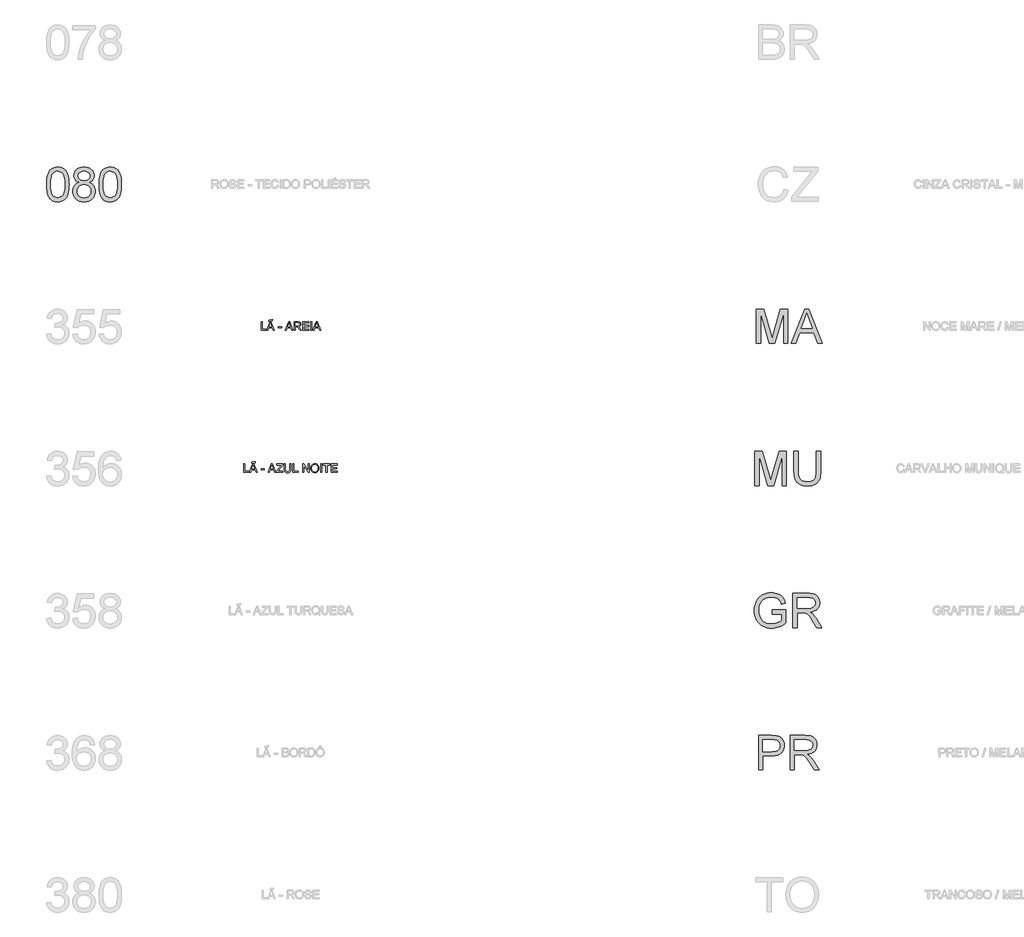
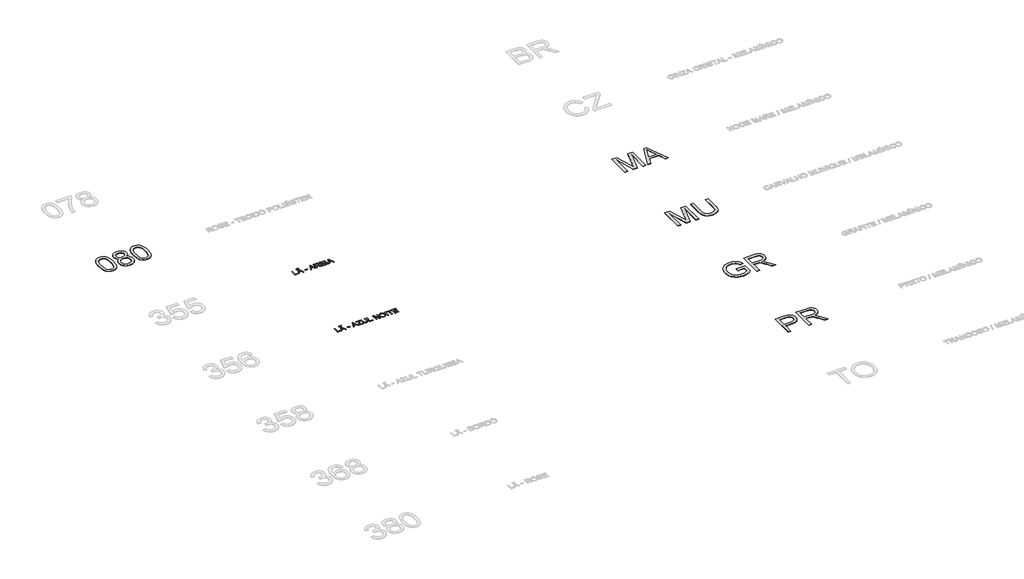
# One storey, part 27 of 67: 7 proxies.
"""IFC4 building model written with IfcOpenShell, lengths in millimetres."""

from ifc_helpers import new_model, si_unit, origin, origin_with_axes, place, context, project, spatial, polyline, outline, extrude, element, save

model = new_model("IFC4")

# Units and contexts
model_context = context("Model", 3, world=origin())
ifc_project = project(units=[si_unit("LENGTHUNIT", "METRE", prefix="MILLI")], contexts=[model_context])

# Site, building, storey
site = spatial("IfcSite", under=ifc_project)
building = spatial("IfcBuilding", under=site)
storey = spatial("IfcBuildingStorey", under=building, Name="Marelli - Linha COLAB - Planta Baixa", Elevation=0.0)

# Proxies
placement = place(None, origin())
element("IfcBuildingElementProxy", 1, Name="1200mm Arial", ObjectType="1200mm Arial", at=placement, inside=storey, context=model_context, shape_type="SweptSolid", body=[
    extrude(outline(polyline([(24790.6152836, -112988.8184403), (24790.6152836, -111783.3427185), (25049.8985138, -111783.3427185), (25296.5266033, -112633.0029745), (25346.2642491, -112810.469249), (25400.1221732, -112618.2876947), (25642.6299844, -111783.3427185), (25901.9132146, -111783.3427185), (25901.9132146, -112988.8184403), (25751.2287494, -112988.8184403), (25751.2287494, -111934.0271837), (25448.3882909, -112988.8184403), (25244.1402072, -112988.8184403), (24941.2997488, -111934.0271837), (24941.2997488, -112988.8184403), (24790.6152836, -112988.8184403)])), origin_with_axes(), (0.0, 0.0, 1.0), 10.0),
    extrude(outline(polyline([(26025.2272594, -112988.8184403), (26506.4169091, -111783.3427185), (26634.734149, -111783.3427185), (27115.9237987, -112988.8184403), (26956.7044712, -112988.8184403), (26818.6751466, -112612.1072772), (26322.1816059, -112612.1072772), (26184.4465869, -112988.8184403), (26025.2272594, -112988.8184403)]), holes=[polyline([(26377.511058, -112461.422812), (26763.6400001, -112461.422812), (26655.0412351, -112165.0570767), (26570.575529, -111934.0271837), (26495.527602, -112139.1581842), (26377.511058, -112461.422812)])]), origin_with_axes(), (0.0, 0.0, 1.0), 10.0),
])
element("IfcBuildingElementProxy", 2, Name="1200mm Arial", ObjectType="1200mm Arial", at=placement, inside=storey, context=model_context, shape_type="SweptSolid", body=[
    extrude(outline(polyline([(24743.5263882, -117988.8184403), (24743.5263882, -116783.3427185), (25002.8096184, -116783.3427185), (25249.437708, -117633.0029745), (25299.1753537, -117810.469249), (25353.0332778, -117618.2876947), (25595.541089, -116783.3427185), (25854.8243192, -116783.3427185), (25854.8243192, -117988.8184403), (25704.139854, -117988.8184403), (25704.139854, -116934.0271837), (25401.2993956, -117988.8184403), (25197.0513118, -117988.8184403), (24894.2108534, -116934.0271837), (24894.2108534, -117988.8184403), (24743.5263882, -117988.8184403)])), origin_with_axes(), (0.0, 0.0, 1.0), 10.0),
    extrude(outline(polyline([(26909.6155758, -116783.3427185), (27060.300041, -116783.3427185), (27060.300041, -117478.7868422), (27057.7432611, -117564.8988202), (27050.0729215, -117641.6482014), (27037.2890222, -117709.0349859), (27019.3915631, -117767.0591736), (26994.83544, -117817.9188594), (26962.0755483, -117863.8121383), (26921.1118881, -117904.7390103), (26871.9444595, -117940.6994753), (26814.51808, -117969.9920792), (26748.7775675, -117990.9153676), (26674.7229219, -118003.4693407), (26592.3541431, -118007.6539984), (26512.0179124, -118004.0119667), (26439.3520214, -117993.0858714), (26374.3564699, -117974.8757126), (26317.031258, -117949.3814904), (26267.3671886, -117916.9802837), (26225.3550648, -117878.0491715), (26190.9948864, -117832.588154), (26164.2866536, -117780.597231), (26144.264676, -117720.2921749), (26129.9632634, -117649.8887581), (26121.3824159, -117569.3869805), (26118.5221334, -117478.7868422), (26118.5221334, -116783.3427185), (26269.2065986, -116783.3427185), (26269.2065986, -117473.4893414), (26271.0644027, -117546.3391735), (26276.6378149, -117608.9067038), (26285.9268353, -117661.1919324), (26298.9314638, -117703.1948592), (26316.4610409, -117737.9505107), (26339.3249069, -117768.4939134), (26367.5230618, -117794.8250672), (26401.0555057, -117816.9439721), (26439.278445, -117834.4551551), (26481.5480862, -117846.9631429), (26527.8644294, -117854.4679356), (26578.2274745, -117856.9695332), (26661.2768349, -117852.0215204), (26731.4871137, -117837.1774819), (26761.7775975, -117826.044453), (26788.8583109, -117812.4374177), (26812.7292538, -117796.356376), (26833.3904264, -117777.8013278), (26851.2556958, -117755.7284081), (26866.7389292, -117729.0937517), (26879.8401268, -117697.8973585), (26890.5592884, -117662.1392285), (26904.8515039, -117576.9377585), (26909.6155758, -117473.4893414), (26909.6155758, -116783.3427185)])), origin_with_axes(), (0.0, 0.0, 1.0), 10.0),
])
element("IfcBuildingElementProxy", 3, Name="1200mm Arial", ObjectType="1200mm Arial", at=placement, inside=storey, context=model_context, shape_type="SweptSolid", body=[
    extrude(outline(polyline([(25346.2642491, -122517.9294864), (25346.2642491, -122367.2450212), (25835.9887611, -122367.2450212), (25835.9887611, -122817.8268889), (25776.9528979, -122862.1382752), (25716.9789356, -122900.6003378), (25656.0668743, -122933.2130767), (25594.2167138, -122959.9764918), (25531.5020307, -122980.835401), (25467.9964013, -122995.7346218), (25403.6998256, -123004.6741543), (25338.6123036, -123007.6539984), (25252.0588672, -123002.9175177), (25169.5705268, -122988.7080757), (25091.1472825, -122965.0256722), (25016.7891342, -122931.8703074), (24948.896512, -122889.7386219), (24889.8698459, -122839.1272564), (24839.7091358, -122780.036211), (24798.4143819, -122712.4654855), (24766.1603279, -122638.5763868), (24743.121718, -122560.5302215), (24729.298552, -122478.3269897), (24724.69083, -122391.9666913), (24729.2801579, -122305.5971959), (24743.0481416, -122222.1891505), (24765.994781, -122141.7425552), (24798.1200763, -122064.25741), (24838.8538102, -121993.1366233), (24887.6257657, -121931.7831035), (24944.4359428, -121880.1968508), (25009.2843415, -121838.3778649), (25080.7638132, -121806.0594317), (25157.4672092, -121782.9748365), (25239.3945295, -121769.1240794), (25326.5457741, -121764.5071603), (25390.1709652, -121767.1835018), (25450.6691593, -121775.2125264), (25508.0403565, -121788.594234), (25562.2845566, -121807.3286246), (25612.1233699, -121830.836284), (25656.2784064, -121858.5377983), (25694.7496661, -121890.4331673), (25727.5371489, -121926.522391), (25755.6893186, -121967.6240069), (25780.2546388, -122014.5565524), (25801.2331096, -122067.3200276), (25818.6247309, -122125.9144324), (25679.7124895, -122165.0570767), (25665.043195, -122122.9069971), (25648.7000373, -122085.6313539), (25630.6830166, -122053.2301472), (25610.9921328, -122025.7033769), (25588.2570255, -122001.8646236), (25561.1073343, -121980.5274679), (25529.5430591, -121961.6919097), (25493.5642, -121945.3579491), (25454.3387822, -121932.1601826), (25413.0348312, -121922.7332064), (25369.6523469, -121917.0770208), (25324.1913294, -121915.1916255), (25270.3058141, -121917.2241736), (25220.1910893, -121923.3218176), (25173.847155, -121933.4845578), (25131.2740111, -121947.7123939), (25092.5544311, -121965.241971), (25057.7711885, -121985.3099338), (25026.9242832, -122007.9162824), (25000.0137152, -122033.0610168), (24955.6839348, -122088.5008335), (24922.4641906, -122149.1645745), (24901.8627989, -122204.8986967), (24887.1475191, -122262.9136874), (24878.3183512, -122323.2095464), (24875.3752953, -122385.7862738), (24878.9161595, -122461.0273388), (24889.5387521, -122529.8856513), (24907.2430731, -122592.3612111), (24932.0291225, -122648.4540183), (24963.5750036, -122697.9525408), (25001.5588196, -122740.6452463), (25045.9805705, -122776.5321349), (25096.8402564, -122805.6132067), (25151.7558412, -122828.0815995), (25208.3452891, -122844.1304516), (25266.6086001, -122853.7597628), (25326.5457741, -122856.9695332), (25379.0517319, -122854.5507091), (25430.9138962, -122847.2942367), (25482.132267, -122835.2001161), (25532.7068442, -122818.2683473), (25621.1088877, -122778.2795744), (25656.2324212, -122757.3194978), (25685.3042958, -122735.7156276), (25685.3042958, -122517.9294864), (25346.2642491, -122517.9294864)])), origin_with_axes(), (0.0, 0.0, 1.0), 10.0),
    extrude(outline(polyline([(26080.8510171, -122988.8184403), (26080.8510171, -121783.3427185), (26600.3003942, -121783.3427185), (26674.8608776, -121785.3752665), (26739.9116114, -121791.4729106), (26795.4525956, -121801.6356507), (26841.4838303, -121815.8634868), (26880.6816569, -121835.250868), (26915.7224169, -121860.8922431), (26946.6061104, -121892.787612), (26973.3327373, -121930.9369749), (26994.8998193, -121973.2893896), (27010.3048779, -122017.793914), (27019.547913, -122064.450548), (27022.6289247, -122113.2592917), (27017.524562, -122175.1738315), (27002.211474, -122232.0115998), (26976.6896606, -122283.7725965), (26940.9591218, -122330.4568217), (26919.1506172, -122351.5226644), (26894.5600051, -122370.5743533), (26837.0324581, -122402.6352692), (26768.3764808, -122426.6395693), (26688.5920731, -122442.5872538), (26738.2561424, -122475.0344458), (26774.2350016, -122507.0401794), (26835.9656004, -122580.2486964), (26896.371824, -122662.1392285), (27097.3825461, -122988.8184403), (26922.2707164, -122988.8184403), (26765.4058337, -122738.9529891), (26702.6451653, -122643.597976), (26652.0981792, -122573.5532441), (26609.9756907, -122525.3239145), (26572.4885154, -122495.4151083), (26536.9879029, -122477.8671372), (26500.8251027, -122466.7203127), (26465.5820076, -122462.7471872), (26413.4163407, -122461.422812), (26231.5354823, -122461.422812), (26231.5354823, -122988.8184403), (26080.8510171, -122988.8184403)]), holes=[polyline([(26231.5354823, -122310.7383468), (26568.8096955, -122310.7383468), (26665.6730248, -122305.4040578), (26705.9653003, -122298.7361967), (26740.8313164, -122289.401191), (26771.0528223, -122277.1323265), (26797.4115673, -122261.6628886), (26819.9075513, -122242.9928773), (26838.5407743, -122221.1222927), (26853.1548866, -122197.1271896), (26863.5935382, -122172.0836228), (26869.8567292, -122145.9915923), (26871.9444595, -122118.8510981), (26867.9621369, -122080.3154591), (26856.0151691, -122045.3482754), (26836.1035561, -122013.9495471), (26808.2272979, -121986.1192742), (26771.742601, -121963.3289846), (26726.005672, -121947.0502063), (26671.0165108, -121937.2829394), (26606.7751174, -121934.0271837), (26231.5354823, -121934.0271837), (26231.5354823, -122310.7383468)])]), origin_with_axes(), (0.0, 0.0, 1.0), 10.0),
])
element("IfcBuildingElementProxy", 4, Name="1200mm Arial", ObjectType="1200mm Arial", at=placement, inside=storey, context=model_context, shape_type="SweptSolid", body=[
    extrude(outline(polyline([(24875.3752953, -127988.8184403), (24875.3752953, -126783.3427185), (25322.1311902, -126783.3427185), (25426.1682184, -126786.212198), (25502.246215, -126794.8206367), (25544.1755654, -126803.8613368), (25582.5548546, -126816.268157), (25617.3840825, -126832.0410976), (25648.6632491, -126851.1801584), (25676.7234483, -126874.0808126), (25701.8957738, -126901.1385333), (25724.1802257, -126932.3533206), (25743.5768039, -126967.7251745), (25759.2853651, -127006.0860695), (25770.5057659, -127046.2679804), (25777.2380064, -127088.2709072), (25779.4820866, -127132.0948499), (25773.4212307, -127206.0943132), (25765.8451609, -127240.8729573), (25755.2386631, -127274.1708764), (25741.6017374, -127305.9880705), (25724.9343838, -127336.3245395), (25705.2366022, -127365.1802835), (25682.5083927, -127392.5553025), (25655.8254517, -127417.5252929), (25624.2634758, -127439.1659513), (25587.8224649, -127457.4772776), (25546.5024191, -127472.4592718), (25500.3033382, -127484.111934), (25449.2252225, -127492.4352642), (25393.2680718, -127497.4292623), (25332.4318861, -127499.0939283), (25026.0597605, -127499.0939283), (25026.0597605, -127988.8184403), (24875.3752953, -127988.8184403)]), holes=[polyline([(25026.0597605, -127348.4094631), (25341.2610539, -127348.4094631), (25413.733807, -127344.9513723), (25474.8757946, -127334.5771), (25524.6870167, -127317.2866463), (25563.1674734, -127293.080011), (25591.8806632, -127262.6009877), (25612.3900844, -127226.4933699), (25624.6957371, -127184.7571575), (25628.7976214, -127137.3923506), (25626.3787973, -127102.2228319), (25619.1223249, -127069.7020635), (25607.0282043, -127039.8300455), (25590.0964355, -127012.6067779), (25569.2283293, -126988.9151774), (25545.3251967, -126969.6381608), (25518.3870376, -126954.7757282), (25488.413852, -126944.3278796), (25430.2884968, -126936.6023577), (25337.7293868, -126934.0271837), (25026.0597605, -126934.0271837), (25026.0597605, -127348.4094631)])]), origin_with_axes(), (0.0, 0.0, 1.0), 10.0),
    extrude(outline(polyline([(25986.6732263, -127988.8184403), (25986.6732263, -126783.3427185), (26506.1226035, -126783.3427185), (26580.6830868, -126785.3752665), (26645.7338206, -126791.4729106), (26701.2748049, -126801.6356507), (26747.3060395, -126815.8634868), (26786.5038661, -126835.250868), (26821.5446261, -126860.8922431), (26852.4283196, -126892.787612), (26879.1549466, -126930.9369749), (26900.7220286, -126973.2893896), (26916.1270871, -127017.793914), (26925.3701222, -127064.450548), (26928.4511339, -127113.2592917), (26923.3467713, -127175.1738315), (26908.0336832, -127232.0115998), (26882.5118698, -127283.7725965), (26846.781331, -127330.4568217), (26824.9728265, -127351.5226644), (26800.3822144, -127370.5743533), (26742.8546674, -127402.6352692), (26674.19869, -127426.6395693), (26594.4142823, -127442.5872538), (26644.0783517, -127475.0344458), (26680.0572108, -127507.0401794), (26741.7878096, -127580.2486964), (26802.1940332, -127662.1392285), (27003.2047554, -127988.8184403), (26828.0929257, -127988.8184403), (26671.2280429, -127738.9529891), (26608.4673745, -127643.597976), (26557.9203884, -127573.5532441), (26515.7978999, -127525.3239145), (26478.3107246, -127495.4151083), (26442.8101121, -127477.8671372), (26406.647312, -127466.7203127), (26371.4042168, -127462.7471872), (26319.2385499, -127461.422812), (26137.3576915, -127461.422812), (26137.3576915, -127988.8184403), (25986.6732263, -127988.8184403)]), holes=[polyline([(26137.3576915, -127310.7383468), (26474.6319047, -127310.7383468), (26571.495234, -127305.4040578), (26611.7875095, -127298.7361967), (26646.6535256, -127289.401191), (26676.8750315, -127277.1323265), (26703.2337765, -127261.6628886), (26725.7297605, -127242.9928773), (26744.3629836, -127221.1222927), (26758.9770958, -127197.1271896), (26769.4157474, -127172.0836228), (26775.6789384, -127145.9915923), (26777.7666687, -127118.8510981), (26773.7843461, -127080.3154591), (26761.8373783, -127045.3482754), (26741.9257653, -127013.9495471), (26714.0495071, -126986.1192742), (26677.5648103, -126963.3289846), (26631.8278812, -126947.0502063), (26576.83872, -126937.2829394), (26512.5973266, -126934.0271837), (26137.3576915, -126934.0271837), (26137.3576915, -127310.7383468)])]), origin_with_axes(), (0.0, 0.0, 1.0), 10.0),
])
element("IfcBuildingElementProxy", 5, Name="1200mm Arial", ObjectType="1200mm Arial", at=placement, inside=storey, context=model_context, shape_type="SweptSolid", body=[
    extrude(outline(polyline([(-181.1313792, -107395.792664), (-178.3630672, -107294.4319773), (-170.0581311, -107202.8385576), (-156.2165711, -107121.0124048), (-136.838387, -107048.953519), (-112.0063523, -106986.073289), (-81.8032405, -106931.7831035), (-46.2290516, -106886.0829627), (-5.2837855, -106848.9728664), (41.1705134, -106820.2596767), (93.271801, -106799.7502555), (151.0200772, -106787.4446027), (214.415342, -106783.3427185), (262.0560604, -106785.7707396), (307.2687576, -106793.0548031), (350.0534336, -106805.194909), (390.4100885, -106822.1910572), (427.3638349, -106843.7581391), (459.9397856, -106869.6110463), (488.1379405, -106899.7497788), (511.9582997, -106934.1743365), (532.5964796, -106972.7467637), (551.2480968, -107015.3291046), (582.5916428, -107112.5235278), (594.5662017, -107169.6831928), (603.1194581, -107235.9479371), (608.2514119, -107311.3177609), (609.9620632, -107395.792664), (607.2213424, -107496.5095573), (598.9991798, -107587.6431245), (585.2955754, -107669.1933658), (566.1105294, -107741.1602811), (541.4716328, -107804.0681023), (511.4064767, -107858.4410612), (475.9150612, -107904.2791578), (434.9973863, -107941.5823921), (388.4879051, -107970.4887199), (336.2210706, -107991.1360968), (278.1968829, -108003.524523), (214.415342, -108007.6539984), (171.7410306, -108005.8605737), (131.4211639, -108000.4802995), (93.455742, -107991.5131759), (57.8447649, -107978.9592028), (24.5882325, -107962.8183803), (-6.3138551, -107943.0907083), (-34.8614979, -107919.7761868), (-61.054696, -107892.8748159), (-89.1976686, -107850.2786794), (-113.5882449, -107802.0999336), (-134.2264248, -107748.3385785), (-151.1122084, -107688.9946142), (-164.2455956, -107624.0680406), (-173.6265865, -107553.5588577), (-179.255181, -107477.4670655), (-181.1313792, -107395.792664)]), holes=[polyline([(-30.446914, -107395.4983584), (-26.03233, -107526.4919399), (-12.7885782, -107632.5247279), (-2.8557643, -107676.1808245), (9.2843415, -107713.5967226), (23.6317393, -107744.7724225), (40.1864291, -107769.7079239), (77.5632398, -107807.884878), (119.0603289, -107835.1541309), (164.6776963, -107851.5156826), (214.415342, -107856.9695332), (264.1529878, -107851.4972885), (309.7703552, -107835.0805545), (351.2674442, -107807.7193311), (388.6442549, -107769.4136183), (405.1989447, -107744.418336), (419.5463425, -107713.2104465), (431.6864484, -107675.7899498), (441.6192622, -107632.1568459), (454.8630141, -107526.2528166), (459.277598, -107395.4983584), (455.0101669, -107267.9720648), (442.2078734, -107163.8062779), (432.6061533, -107120.4835744), (420.8707177, -107083.0009976), (407.0015665, -107051.3585475), (390.9986997, -107025.5562241), (354.2472884, -106985.5122689), (312.2719527, -106956.9094438), (265.0726927, -106939.7477487), (212.6495084, -106934.0271837), (163.1693801, -106939.067167), (118.3245649, -106954.187117), (78.1150628, -106979.3870337), (42.5408739, -107014.666917), (25.4343611, -107043.2145599), (10.6087167, -107077.2068562), (-1.9360594, -107116.6438061), (-12.199967, -107161.5254095), (-25.8851772, -107267.6225769), (-30.446914, -107395.4983584)])]), origin_with_axes(), (0.0, 0.0, 1.0), 10.0),
    extrude(outline(polyline([(961.362945, -107324.8650154), (918.0172489, -107306.7652212), (880.6864235, -107285.1337599), (849.3704686, -107259.9706314), (824.0693844, -107231.2758358), (804.5624416, -107199.3252845), (790.6289111, -107164.3948891), (782.2687927, -107126.4846495), (779.4820866, -107085.5945657), (785.5521395, -107024.1398784), (793.1397057, -106995.3301197), (803.7622983, -106967.7987509), (817.4199174, -106941.545772), (834.1125629, -106916.571183), (876.6029333, -106870.4571749), (901.890222, -106850.0397242), (929.1916645, -106832.3446002), (958.507261, -106817.371803), (989.8370114, -106805.1213326), (1058.538974, -106788.787372), (1135.2975523, -106783.3427185), (1212.4240126, -106788.9161307), (1281.64101, -106805.6363674), (1313.2834601, -106818.1765449), (1342.9485445, -106833.5034285), (1370.6362632, -106851.6170183), (1396.3466161, -106872.5173141), (1439.6095387, -106919.5326331), (1456.6056869, -106944.8613085), (1470.5116263, -106971.4039944), (1481.327357, -106999.1606909), (1489.0528789, -107028.1313981), (1493.688192, -107058.3161158), (1495.2332964, -107089.7148441), (1492.4833785, -107129.160991), (1484.2336248, -107165.9767817), (1470.4840352, -107200.1622161), (1451.2346098, -107231.7172942), (1426.3933781, -107260.2189518), (1395.8683695, -107285.2441245), (1359.6595841, -107306.7928124), (1317.7670219, -107324.8650154), (1367.2931355, -107345.9354566), (1410.5100729, -107372.6528865), (1447.4178341, -107405.0173051), (1478.016419, -107443.0287122), (1502.0299163, -107485.8409794), (1519.1824143, -107532.607978), (1529.4739131, -107583.3297081), (1532.9044127, -107638.0061697), (1531.2029585, -107676.3670647), (1526.0985958, -107713.1644613), (1517.5913247, -107748.3983594), (1505.6811451, -107782.068759), (1490.368057, -107814.1756601), (1471.6520605, -107844.7190628), (1449.5331556, -107873.6989669), (1424.0113422, -107901.1153726), (1395.7120197, -107926.085363), (1365.2605875, -107947.7260214), (1332.6570457, -107966.0373477), (1297.9013942, -107981.019342), (1260.993633, -107992.6720042), (1221.9337622, -108000.9953343), (1180.7217817, -108005.9893324), (1137.3576915, -108007.6539984), (1093.9936013, -108005.9824346), (1052.7816208, -108000.9677432), (1013.72175, -107992.6099241), (976.8139888, -107980.9089774), (942.0583373, -107965.864903), (909.4547955, -107947.4777011), (879.0033633, -107925.7473715), (850.7040409, -107900.6739142), (825.1822275, -107873.1034579), (803.0633225, -107843.8821312), (784.347326, -107813.009934), (769.0342379, -107780.4868664), (757.1240583, -107746.3129283), (748.6167872, -107710.4881198), (743.5124245, -107673.0124408), (741.8109703, -107633.8858913), (745.3794256, -107576.7170293), (756.0847917, -107524.4042096), (773.9270685, -107476.9474322), (798.9062559, -107434.3466971), (830.4705311, -107397.3745566), (868.068071, -107366.8035628), (911.6988757, -107342.6337157), (961.362945, -107324.8650154)]), holes=[polyline([(930.1665518, -107090.0091496), (933.5050809, -107124.553269), (943.5206683, -107155.7864504), (960.2133138, -107183.7086938), (983.5830175, -107208.3199993), (1013.3354739, -107228.4063562), (1049.1763773, -107242.753754), (1091.1057277, -107251.3621927), (1139.1235251, -107254.2316723), (1185.9549031, -107251.3805868), (1226.9737455, -107242.8273304), (1262.1800525, -107228.5719031), (1291.5738239, -107208.6143049), (1314.7503896, -107184.5180342), (1331.3050794, -107157.8465896), (1341.2378932, -107128.5999709), (1344.5488312, -107096.7781784), (1341.1275286, -107063.714784), (1330.863621, -107033.3921106), (1313.7571082, -107005.810158), (1289.8079903, -106980.9689263), (1259.7520313, -106960.4319139), (1224.3249952, -106945.7626193), (1183.5268819, -106936.9610426), (1137.3576915, -106934.0271837), (1090.8298162, -106936.8966633), (1049.8385649, -106945.5051019), (1014.3839376, -106959.8524998), (984.4659343, -106979.9388567), (960.7099545, -107004.0351274), (943.7413974, -107030.4122664), (933.5602632, -107059.0702739), (930.1665518, -107090.0091496)]), polyline([(892.4954355, -107628.5883906), (894.068131, -107657.6418712), (898.7862176, -107686.2354992), (917.658564, -107742.0431979), (932.6589523, -107767.9328933), (952.4969889, -107790.7139859), (977.1726738, -107810.3864756), (1006.6860068, -107826.9503624), (1038.8756814, -107840.0837496), (1071.5803908, -107849.4647405), (1104.8001349, -107855.093335), (1138.5349139, -107856.9695332), (1193.0182374, -107853.0239988), (1241.1004141, -107841.1873956), (1282.7814442, -107821.4597236), (1318.0613275, -107793.8409828), (1346.1307238, -107760.133795), (1366.1802925, -107722.140782), (1378.2100338, -107679.8619437), (1382.2199475, -107633.2972801), (1378.0812751, -107585.9876555), (1365.6652577, -107542.9454621), (1344.9718955, -107504.1706998), (1316.0011884, -107469.6633687), (1279.7648118, -107441.336455), (1237.2744414, -107421.1029453), (1188.530077, -107408.9628395), (1133.5317188, -107404.9161375), (1079.8485386, -107408.9076572), (1032.4009583, -107420.8822161), (991.1889778, -107440.8398143), (956.2125971, -107468.7804519), (928.3363389, -107502.7175659), (908.4247259, -107540.6645937), (896.4777581, -107582.6215353), (892.4954355, -107628.5883906)])]), origin_with_axes(), (0.0, 0.0, 1.0), 10.0),
    extrude(outline(polyline([(1664.7533198, -107395.792664), (1667.5216318, -107294.4319773), (1675.8265679, -107202.8385576), (1689.6681279, -107121.0124048), (1709.046312, -107048.953519), (1733.8783467, -106986.073289), (1764.0814585, -106931.7831035), (1799.6556474, -106886.0829627), (1840.6009135, -106848.9728664), (1887.0552124, -106820.2596767), (1939.1565, -106799.7502555), (1996.9047762, -106787.4446027), (2060.300041, -106783.3427185), (2107.9407594, -106785.7707396), (2153.1534566, -106793.0548031), (2195.9381326, -106805.194909), (2236.2947875, -106822.1910572), (2273.2485339, -106843.7581391), (2305.8244846, -106869.6110463), (2334.0226395, -106899.7497788), (2357.8429987, -106934.1743365), (2378.4811786, -106972.7467637), (2397.1327958, -107015.3291046), (2428.4763418, -107112.5235278), (2440.4509007, -107169.6831928), (2449.0041571, -107235.9479371), (2454.1361109, -107311.3177609), (2455.8467622, -107395.792664), (2453.1060414, -107496.5095573), (2444.8838788, -107587.6431245), (2431.1802744, -107669.1933658), (2411.9952284, -107741.1602811), (2387.3563318, -107804.0681023), (2357.2911757, -107858.4410612), (2321.7997602, -107904.2791578), (2280.8820853, -107941.5823921), (2234.3726041, -107970.4887199), (2182.1057696, -107991.1360968), (2124.0815819, -108003.524523), (2060.300041, -108007.6539984), (2017.6257296, -108005.8605737), (1977.3058629, -108000.4802995), (1939.340441, -107991.5131759), (1903.7294639, -107978.9592028), (1870.4729315, -107962.8183803), (1839.5708439, -107943.0907083), (1811.0232011, -107919.7761868), (1784.830003, -107892.8748159), (1756.6870304, -107850.2786794), (1732.2964541, -107802.0999336), (1711.6582742, -107748.3385785), (1694.7724906, -107688.9946142), (1681.6391034, -107624.0680406), (1672.2581125, -107553.5588577), (1666.629518, -107477.4670655), (1664.7533198, -107395.792664)]), holes=[polyline([(1815.437785, -107395.4983584), (1819.852369, -107526.4919399), (1833.0961208, -107632.5247279), (1843.0289347, -107676.1808245), (1855.1690405, -107713.5967226), (1869.5164383, -107744.7724225), (1886.0711281, -107769.7079239), (1923.4479388, -107807.884878), (1964.9450279, -107835.1541309), (2010.5623953, -107851.5156826), (2060.300041, -107856.9695332), (2110.0376868, -107851.4972885), (2155.6550542, -107835.0805545), (2197.1521432, -107807.7193311), (2234.5289539, -107769.4136183), (2251.0836437, -107744.418336), (2265.4310415, -107713.2104465), (2277.5711474, -107675.7899498), (2287.5039612, -107632.1568459), (2300.7477131, -107526.2528166), (2305.162297, -107395.4983584), (2300.8948659, -107267.9720648), (2288.0925724, -107163.8062779), (2278.4908523, -107120.4835744), (2266.7554167, -107083.0009976), (2252.8862655, -107051.3585475), (2236.8833987, -107025.5562241), (2200.1319874, -106985.5122689), (2158.1566517, -106956.9094438), (2110.9573917, -106939.7477487), (2058.5342074, -106934.0271837), (2009.0540791, -106939.067167), (1964.2092639, -106954.187117), (1923.9997618, -106979.3870337), (1888.4255729, -107014.666917), (1871.3190601, -107043.2145599), (1856.4934157, -107077.2068562), (1843.9486396, -107116.6438061), (1833.684732, -107161.5254095), (1819.9995218, -107267.6225769), (1815.437785, -107395.4983584)])]), origin_with_axes(), (0.0, 0.0, 1.0), 10.0),
])
element("IfcBuildingElementProxy", 6, Name="300mm Arial", ObjectType="300mm Arial", at=placement, inside=storey, context=model_context, shape_type="SweptSolid", body=[
    extrude(outline(polyline([(7365.9575162, -112530.5663201), (7365.9575162, -112229.1973896), (7403.6286325, -112229.1973896), (7403.6286325, -112492.8952038), (7554.3130977, -112492.8952038), (7554.3130977, -112530.5663201), (7365.9575162, -112530.5663201)])), origin_with_axes(), (0.0, 0.0, 1.0), 10.0),
    extrude(outline(polyline([(7639.0731094, -112210.3618315), (7641.9241949, -112187.2036599), (7650.7717568, -112169.2326244), (7664.1074792, -112157.6995239), (7680.7173513, -112153.855157), (7694.6232907, -112156.8901835), (7710.8836749, -112165.9952628), (7726.1139895, -112172.6907152), (7734.0970288, -112168.9015306), (7737.9597897, -112153.855157), (7770.9220165, -112153.855157), (7767.6386697, -112178.5768271), (7758.9658516, -112196.2351629), (7746.0623906, -112206.8301643), (7730.087115, -112210.3618315), (7716.0892051, -112207.4923519), (7700.2886734, -112198.8839132), (7684.3961712, -112191.5262733), (7675.4198505, -112196.3087393), (7672.0353362, -112210.3618315), (7639.0731094, -112210.3618315)])), origin_with_axes(), (0.0, 0.0, 1.0), 10.0),
    extrude(outline(polyline([(7561.5971612, -112530.5663201), (7681.8945736, -112229.1973896), (7713.9738836, -112229.1973896), (7834.271296, -112530.5663201), (7794.4664642, -112530.5663201), (7759.959133, -112436.3885293), (7635.8357478, -112436.3885293), (7601.4019931, -112530.5663201), (7561.5971612, -112530.5663201)]), holes=[polyline([(7649.6681109, -112398.717413), (7746.2003464, -112398.717413), (7719.0506551, -112324.6259792), (7697.9342286, -112266.8685059), (7679.1722469, -112318.1512561), (7649.6681109, -112398.717413)])]), origin_with_axes(), (0.0, 0.0, 1.0), 10.0),
    extrude(outline(polyline([(7968.6953771, -112441.0974188), (7968.6953771, -112403.4263025), (8086.4176155, -112403.4263025), (8086.4176155, -112441.0974188), (7968.6953771, -112441.0974188)])), origin_with_axes(), (0.0, 0.0, 1.0), 10.0),
    extrude(outline(polyline([(8216.132807, -112530.5663201), (8336.4302195, -112229.1973896), (8368.5095294, -112229.1973896), (8488.8069419, -112530.5663201), (8449.00211, -112530.5663201), (8414.4947788, -112436.3885293), (8290.3713937, -112436.3885293), (8255.9376389, -112530.5663201), (8216.132807, -112530.5663201)]), holes=[polyline([(8304.2037567, -112398.717413), (8400.7359922, -112398.717413), (8373.586301, -112324.6259792), (8352.4698744, -112266.8685059), (8333.7078927, -112318.1512561), (8304.2037567, -112398.717413)])]), origin_with_axes(), (0.0, 0.0, 1.0), 10.0),
    extrude(outline(polyline([(8529.0532321, -112530.5663201), (8529.0532321, -112229.1973896), (8658.9155764, -112229.1973896), (8693.8183807, -112231.2299376), (8719.2114354, -112237.3275817), (8737.7710821, -112248.5847708), (8752.1736622, -112266.0959537), (8761.4166973, -112287.8101885), (8764.497709, -112311.6765329), (8759.3933464, -112341.3646099), (8744.0802583, -112365.9759154), (8732.4804792, -112376.0052983), (8718.0985924, -112384.0205273), (8680.9884961, -112394.0085235), (8702.3992283, -112410.1217548), (8732.9334339, -112448.8965171), (8783.1861144, -112530.5663201), (8739.408157, -112530.5663201), (8700.1919363, -112468.0999573), (8671.8650227, -112426.750021), (8651.9626067, -112407.2154871), (8634.0467536, -112400.0417882), (8612.194563, -112398.717413), (8566.7243484, -112398.717413), (8566.7243484, -112530.5663201), (8529.0532321, -112530.5663201)]), holes=[polyline([(8566.7243484, -112361.0462967), (8651.0429017, -112361.0462967), (8675.2587341, -112359.7127245), (8694.048307, -112355.7120078), (8708.1933697, -112348.7774322), (8718.4756714, -112338.6422832), (8724.7388624, -112326.3826157), (8726.8265927, -112313.0744845), (8722.8442701, -112294.6987789), (8710.8973023, -112279.8915286), (8690.3418959, -112270.1242616), (8660.5342572, -112266.8685059), (8566.7243484, -112266.8685059), (8566.7243484, -112361.0462967)])]), origin_with_axes(), (0.0, 0.0, 1.0), 10.0),
    extrude(outline(polyline([(8830.4221626, -112530.5663201), (8830.4221626, -112229.1973896), (9047.0310813, -112229.1973896), (9047.0310813, -112266.8685059), (8868.0932789, -112266.8685059), (8868.0932789, -112356.3374072), (9037.6133023, -112356.3374072), (9037.6133023, -112394.0085235), (8868.0932789, -112394.0085235), (8868.0932789, -112492.8952038), (9051.7399709, -112492.8952038), (9051.7399709, -112530.5663201), (8830.4221626, -112530.5663201)])), origin_with_axes(), (0.0, 0.0, 1.0), 10.0),
    extrude(outline(polyline([(9112.9555349, -112530.5663201), (9112.9555349, -112229.1973896), (9150.6266512, -112229.1973896), (9150.6266512, -112530.5663201), (9112.9555349, -112530.5663201)])), origin_with_axes(), (0.0, 0.0, 1.0), 10.0),
    extrude(outline(polyline([(9190.8729415, -112530.5663201), (9311.1703539, -112229.1973896), (9343.2496639, -112229.1973896), (9463.5470763, -112530.5663201), (9423.7422444, -112530.5663201), (9389.2349133, -112436.3885293), (9265.1115281, -112436.3885293), (9230.6777733, -112530.5663201), (9190.8729415, -112530.5663201)]), holes=[polyline([(9278.9438911, -112398.717413), (9375.4761266, -112398.717413), (9348.3264354, -112324.6259792), (9327.2100089, -112266.8685059), (9308.4480271, -112318.1512561), (9278.9438911, -112398.717413)])]), origin_with_axes(), (0.0, 0.0, 1.0), 10.0),
])
element("IfcBuildingElementProxy", 7, Name="300mm Arial", ObjectType="300mm Arial", at=placement, inside=storey, context=model_context, shape_type="SweptSolid", body=[
    extrude(outline(polyline([(6763.2196553, -117530.5663201), (6763.2196553, -117229.1973896), (6800.8907716, -117229.1973896), (6800.8907716, -117492.8952038), (6951.5752368, -117492.8952038), (6951.5752368, -117530.5663201), (6763.2196553, -117530.5663201)])), origin_with_axes(), (0.0, 0.0, 1.0), 10.0),
    extrude(outline(polyline([(7036.3352485, -117210.3618315), (7039.186334, -117187.2036599), (7048.0338959, -117169.2326244), (7061.3696183, -117157.6995239), (7077.9794904, -117153.855157), (7091.8854298, -117156.8901835), (7108.145814, -117165.9952628), (7123.3761286, -117172.6907152), (7131.3591679, -117168.9015306), (7135.2219288, -117153.855157), (7168.1841556, -117153.855157), (7164.9008088, -117178.5768271), (7156.2279907, -117196.2351629), (7143.3245297, -117206.8301643), (7127.3492541, -117210.3618315), (7113.3513442, -117207.4923519), (7097.5508125, -117198.8839132), (7081.6583103, -117191.5262733), (7072.6819896, -117196.3087393), (7069.2974753, -117210.3618315), (7036.3352485, -117210.3618315)])), origin_with_axes(), (0.0, 0.0, 1.0), 10.0),
    extrude(outline(polyline([(6958.8593003, -117530.5663201), (7079.1567127, -117229.1973896), (7111.2360227, -117229.1973896), (7231.5334351, -117530.5663201), (7191.7286033, -117530.5663201), (7157.2212721, -117436.3885293), (7033.0978869, -117436.3885293), (6998.6641322, -117530.5663201), (6958.8593003, -117530.5663201)]), holes=[polyline([(7046.93025, -117398.717413), (7143.4624855, -117398.717413), (7116.3127943, -117324.6259792), (7095.1963677, -117266.8685059), (7076.434386, -117318.1512561), (7046.93025, -117398.717413)])]), origin_with_axes(), (0.0, 0.0, 1.0), 10.0),
    extrude(outline(polyline([(7365.9575162, -117441.0974188), (7365.9575162, -117403.4263025), (7483.6797546, -117403.4263025), (7483.6797546, -117441.0974188), (7365.9575162, -117441.0974188)])), origin_with_axes(), (0.0, 0.0, 1.0), 10.0),
    extrude(outline(polyline([(7613.3949461, -117530.5663201), (7733.6923586, -117229.1973896), (7765.7716685, -117229.1973896), (7886.069081, -117530.5663201), (7846.2642491, -117530.5663201), (7811.7569179, -117436.3885293), (7687.6335328, -117436.3885293), (7653.199778, -117530.5663201), (7613.3949461, -117530.5663201)]), holes=[polyline([(7701.4658958, -117398.717413), (7797.9981313, -117398.717413), (7770.8484401, -117324.6259792), (7749.7320135, -117266.8685059), (7730.9700318, -117318.1512561), (7701.4658958, -117398.717413)])]), origin_with_axes(), (0.0, 0.0, 1.0), 10.0),
    extrude(outline(polyline([(7902.7709235, -117530.5663201), (7902.7709235, -117491.4972522), (8056.9134795, -117302.7737887), (8086.1968863, -117266.8685059), (7921.6064817, -117266.8685059), (7921.6064817, -117229.1973896), (8133.5065109, -117229.1973896), (8133.5065109, -117266.8685059), (7964.7958279, -117473.397458), (7948.9033257, -117492.8952038), (8138.2154005, -117492.8952038), (8138.2154005, -117530.5663201), (7902.7709235, -117530.5663201)])), origin_with_axes(), (0.0, 0.0, 1.0), 10.0),
    extrude(outline(polyline([(8378.3687669, -117229.1973896), (8416.0398832, -117229.1973896), (8416.0398832, -117403.0584205), (8413.4831033, -117443.7737604), (8405.8127637, -117475.1265034), (8391.48376, -117499.3147446), (8368.9509878, -117518.5365788), (8338.1592648, -117531.0905519), (8299.0534087, -117535.2752096), (8260.8028783, -117531.6331779), (8230.2226874, -117520.7070826), (8207.3036391, -117502.8740029), (8192.0365363, -117478.5110178), (8183.4556888, -117445.8338995), (8180.5954063, -117403.0584205), (8180.5954063, -117229.1973896), (8218.2665226, -117229.1973896), (8218.2665226, -117401.7340454), (8220.1243267, -117435.588386), (8225.6977389, -117459.1604248), (8235.7960997, -117475.4851883), (8251.2287494, -117487.597703), (8271.3518945, -117495.1024957), (8295.5217416, -117497.6040933), (8333.8366514, -117492.6560805), (8348.1794507, -117486.4710644), (8359.3124796, -117477.812042), (8367.6496053, -117465.6351479), (8373.6046951, -117448.8965171), (8378.3687669, -117401.7340454), (8378.3687669, -117229.1973896)])), origin_with_axes(), (0.0, 0.0, 1.0), 10.0),
    extrude(outline(polyline([(8481.9643367, -117530.5663201), (8481.9643367, -117229.1973896), (8519.6354531, -117229.1973896), (8519.6354531, -117492.8952038), (8670.3199183, -117492.8952038), (8670.3199183, -117530.5663201), (8481.9643367, -117530.5663201)])), origin_with_axes(), (0.0, 0.0, 1.0), 10.0),
    extrude(outline(polyline([(8830.4221626, -117530.5663201), (8830.4221626, -117229.1973896), (8870.7420292, -117229.1973896), (9028.1955232, -117467.9528045), (9028.1955232, -117229.1973896), (9065.8666395, -117229.1973896), (9065.8666395, -117530.5663201), (9025.5467728, -117530.5663201), (8868.0932789, -117291.7373288), (8868.0932789, -117530.5663201), (8830.4221626, -117530.5663201)])), origin_with_axes(), (0.0, 0.0, 1.0), 10.0),
    extrude(outline(polyline([(9117.6644244, -117383.8549804), (9120.175219, -117348.5061192), (9127.7076029, -117317.213157), (9140.261576, -117289.9760937), (9157.8371383, -117266.7949295), (9179.3812276, -117248.2858666), (9203.8407818, -117235.0651074), (9231.2158007, -117227.1326519), (9261.5062845, -117224.4885001), (9301.0352049, -117229.454907), (9336.4806351, -117244.3541278), (9365.9111948, -117268.1376988), (9387.3955033, -117299.7571563), (9400.5288905, -117337.68579), (9404.9066862, -117380.3968896), (9400.2989643, -117423.6782064), (9386.4757983, -117462.140269), (9364.2005435, -117493.8149088), (9334.236555, -117516.733957), (9299.0946274, -117530.6398965), (9261.2855553, -117535.2752096), (9221.1496297, -117530.1524528), (9185.5018643, -117514.7841825), (9156.1448811, -117490.5591531), (9134.8813018, -117458.8661192), (9121.9686438, -117422.3998164), (9117.6644244, -117383.8549804)]), holes=[polyline([(9155.3355407, -117384.2228624), (9157.2186367, -117409.1974513), (9162.8679246, -117431.3669401), (9172.2834044, -117450.7313286), (9185.4650761, -117467.2906169), (9201.4886363, -117480.5527628), (9219.4297813, -117490.0257242), (9239.2885113, -117495.709501), (9261.0648261, -117497.6040933), (9283.2136215, -117495.6911069), (9303.3068762, -117489.9521478), (9321.3445903, -117480.3872159), (9337.3267637, -117466.9963113), (9350.4118664, -117450.0875351), (9359.7583684, -117429.9689885), (9365.3662696, -117406.6406715), (9367.2355699, -117380.102584), (9364.0349966, -117346.7540812), (9354.4332765, -117317.9305269), (9338.6787301, -117294.358488), (9317.0196776, -117276.7645316), (9290.8908589, -117265.8108452), (9261.7270137, -117262.1596164), (9240.7071562, -117263.9185522), (9221.204812, -117269.1953595), (9203.2199809, -117277.9900385), (9186.7526631, -117290.302589), (9173.0076721, -117306.7262208), (9163.1898213, -117327.8541437), (9157.2991109, -117353.6863575), (9155.3355407, -117384.2228624)])]), origin_with_axes(), (0.0, 0.0, 1.0), 10.0),
    extrude(outline(polyline([(9461.4133607, -117530.5663201), (9461.4133607, -117229.1973896), (9499.084477, -117229.1973896), (9499.084477, -117530.5663201), (9461.4133607, -117530.5663201)])), origin_with_axes(), (0.0, 0.0, 1.0), 10.0),
    extrude(outline(polyline([(9649.7689422, -117530.5663201), (9649.7689422, -117266.8685059), (9550.8822619, -117266.8685059), (9550.8822619, -117229.1973896), (9786.3267388, -117229.1973896), (9786.3267388, -117266.8685059), (9687.4400585, -117266.8685059), (9687.4400585, -117530.5663201), (9649.7689422, -117530.5663201)])), origin_with_axes(), (0.0, 0.0, 1.0), 10.0),
    extrude(outline(polyline([(9828.7067447, -117530.5663201), (9828.7067447, -117229.1973896), (10045.3156635, -117229.1973896), (10045.3156635, -117266.8685059), (9866.377861, -117266.8685059), (9866.377861, -117356.3374072), (10035.8978844, -117356.3374072), (10035.8978844, -117394.0085235), (9866.377861, -117394.0085235), (9866.377861, -117492.8952038), (10050.024553, -117492.8952038), (10050.024553, -117530.5663201), (9828.7067447, -117530.5663201)])), origin_with_axes(), (0.0, 0.0, 1.0), 10.0),
])

save(model, "model.ifc")
